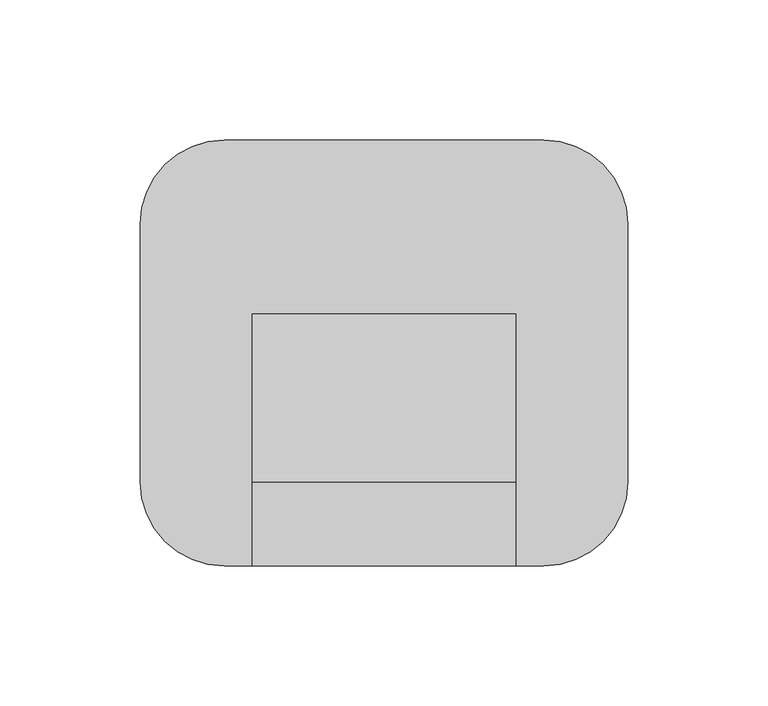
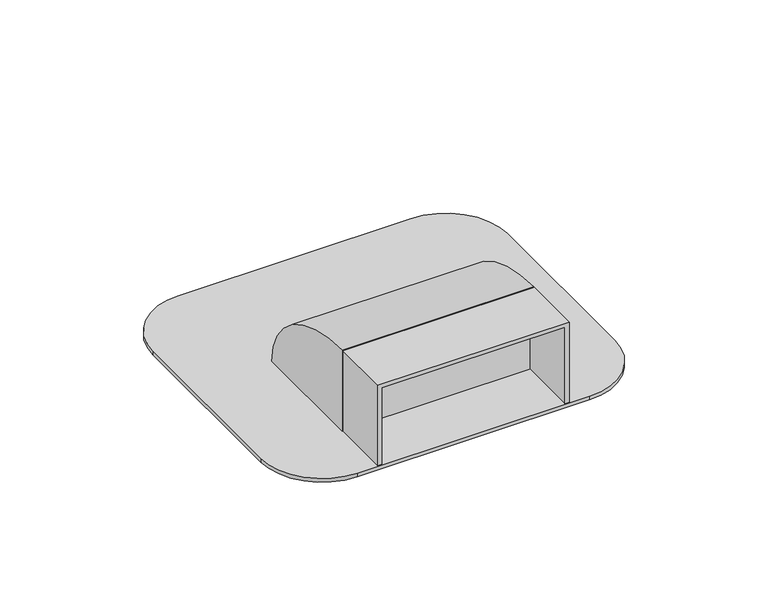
"""IFC4 building model written with IfcOpenShell, lengths in millimetres: duct fitting geometry, КНС_ВводВСтенуПодУглом_DKC : Ввод в стену."""

import ifcopenshell
import ifcopenshell.guid

model = None  # the IFC model being written
_history = None  # IfcOwnerHistory: only IFC2X3 demands one
_inside = {}  # id of a spatial element -> (the spatial element, [elements in it])
_under = {}  # id of a project, library or spatial element -> (it, [spatial elements below it])
_declared = {}  # id of a project -> (the project, [libraries it declares])
_typed = {}  # id of a type object -> (the type object, [elements of that type])
_made_of = {}  # id of a material, layer set ... -> (it, [elements and type objects made of it])


def new_model(schema):
    """Start an empty IFC model of exactly this schema.

    Asked for "IFC4X3", IfcOpenShell would pick the latest addendum, in which some entities
    have other attributes; the version numbers below select the first issue.
    IFC2X3 requires an IfcOwnerHistory on every rooted entity: one is made here for all.
    """
    global model, _history
    if schema == "IFC4X3":
        model = ifcopenshell.file(schema_version=(4, 3, 0, 0))
    else:
        model = ifcopenshell.file(schema=schema)
    _inside.clear()
    _under.clear()
    _declared.clear()
    _typed.clear()
    _made_of.clear()
    _history = None
    if model.schema == "IFC2X3":
        org = make("IfcOrganization", Name="unknown")
        user = make(
            "IfcPersonAndOrganization",
            ThePerson=make("IfcPerson", FamilyName="unknown"),
            TheOrganization=org,
        )
        app = make(
            "IfcApplication",
            ApplicationDeveloper=org,
            Version="unknown",
            ApplicationFullName="unknown",
            ApplicationIdentifier="unknown",
        )
        _history = make(
            "IfcOwnerHistory",
            OwningUser=user,
            OwningApplication=app,
            ChangeAction="ADDED",
            CreationDate=0,
        )
    return model


def make(cls, **values):
    """One entity of the class cls with the attributes given. An attribute that is None is left unset."""
    return model.create_entity(
        cls, **{name: value for name, value in values.items() if value is not None}
    )


def rooted(cls, **values):
    """An entity with a GlobalId (a new one), such as an element, a storey or a relation."""
    return make(cls, GlobalId=ifcopenshell.guid.new(), OwnerHistory=_history, **values)


def si_unit(unit_type, name, prefix=None):
    """IfcSIUnit, for example si_unit("LENGTHUNIT", "METRE", prefix="MILLI")."""
    return make("IfcSIUnit", UnitType=unit_type, Prefix=prefix, Name=name)


def assignment(units):
    """IfcUnitAssignment: the units of a project."""
    return None if units is None else make("IfcUnitAssignment", Units=units)


def point(xyz):
    """IfcCartesianPoint."""
    return None if xyz is None else make("IfcCartesianPoint", Coordinates=xyz)


def direction(xyz):
    """IfcDirection."""
    return None if xyz is None else make("IfcDirection", DirectionRatios=xyz)


def frame(location, z_axis=None, x_axis=None):
    """IfcAxis2Placement3D, a coordinate frame: its origin and axes. An axis left out is left unset."""
    return make(
        "IfcAxis2Placement3D",
        Location=point(location),
        Axis=direction(z_axis),
        RefDirection=direction(x_axis),
    )


def frame_2d(location, x_axis=None):
    """IfcAxis2Placement2D, a coordinate frame in the plane: its origin and x axis."""
    return make(
        "IfcAxis2Placement2D", Location=point(location), RefDirection=direction(x_axis)
    )


def origin():
    """The frame at (0, 0, 0) with its axes left unset."""
    return frame((0.0, 0.0, 0.0))


def place(relative_to, where):
    """IfcLocalPlacement: puts the frame where relative to a parent placement (None: the world)."""
    return make(
        "IfcLocalPlacement", PlacementRelTo=relative_to, RelativePlacement=where
    )


def context(
    kind, dimensions, precision=None, world=None, true_north=None, identifier=None
):
    """IfcGeometricRepresentationContext, for example the 3D "Model" context."""
    return make(
        "IfcGeometricRepresentationContext",
        ContextIdentifier=identifier,
        ContextType=kind,
        CoordinateSpaceDimension=dimensions,
        Precision=precision,
        WorldCoordinateSystem=world,
        TrueNorth=true_north,
    )


def project(units=None, contexts=None):
    """IfcProject with its units and contexts."""
    return rooted(
        "IfcProject",
        Name="project",
        RepresentationContexts=contexts,
        UnitsInContext=assignment(units),
    )


def spatial(cls, under=None, at=None, **own):
    """A site, building, storey or space (cls), placed at a placement, below another one or the project."""
    s = rooted(cls, ObjectPlacement=at, **own)
    if under is not None:
        _under.setdefault(under.id(), (under, []))[1].append(s)
    return s


def polyline(points):
    """IfcPolyline through the points."""
    return make("IfcPolyline", Points=[point(p) for p in points])


def circle_curve(where, radius):
    """IfcCircle in the frame where."""
    return make("IfcCircle", Position=where, Radius=radius)


def ellipse_curve(where, semi_axis1, semi_axis2):
    """IfcEllipse in the frame where."""
    return make(
        "IfcEllipse", Position=where, SemiAxis1=semi_axis1, SemiAxis2=semi_axis2
    )


def trimmed(basis, trim1, trim2, sense, master):
    """IfcTrimmedCurve: the piece of a basis curve between two trims."""
    return make(
        "IfcTrimmedCurve",
        BasisCurve=basis,
        Trim1=trim1,
        Trim2=trim2,
        SenseAgreement=sense,
        MasterRepresentation=master,
    )


def segment(curve, same_sense, transition):
    """IfcCompositeCurveSegment."""
    return make(
        "IfcCompositeCurveSegment",
        Transition=transition,
        SameSense=same_sense,
        ParentCurve=curve,
    )


def composite_curve(segments, self_intersect=None):
    """IfcCompositeCurve: segments joined end to end."""
    return make("IfcCompositeCurve", Segments=segments, SelfIntersect=self_intersect)


def outline(outer, holes=None, kind="AREA"):
    """IfcArbitraryClosedProfileDef: a profile drawn as a closed curve; with holes, ...WithVoids."""
    if holes is None:
        return make("IfcArbitraryClosedProfileDef", ProfileType=kind, OuterCurve=outer)
    return make(
        "IfcArbitraryProfileDefWithVoids",
        ProfileType=kind,
        OuterCurve=outer,
        InnerCurves=holes,
    )


def extrude(swept, where, along, depth):
    """IfcExtrudedAreaSolid: the profile swept, set in the frame where, extruded along a direction by depth."""
    return make(
        "IfcExtrudedAreaSolid",
        SweptArea=swept,
        Position=where,
        ExtrudedDirection=direction(along),
        Depth=depth,
    )


def shape(context_of_items, identifier, shape_type, items):
    """IfcShapeRepresentation: the items that make up one representation, for example the "Body"."""
    return make(
        "IfcShapeRepresentation",
        ContextOfItems=context_of_items,
        RepresentationIdentifier=identifier,
        RepresentationType=shape_type,
        Items=items,
    )


def source(mapping_origin, context_of_items, identifier, shape_type, items):
    """IfcRepresentationMap: a shape defined once, which mapped items show again and again."""
    return make(
        "IfcRepresentationMap",
        MappingOrigin=mapping_origin,
        MappedRepresentation=shape(context_of_items, identifier, shape_type, items),
    )


def transform(
    local_origin,
    x_axis=None,
    y_axis=None,
    z_axis=None,
    scale=None,
    scale2=None,
    scale3=None,
    uniform=True,
):
    """IfcCartesianTransformationOperator3D, or its non-uniform kind. x_axis, y_axis, z_axis: its Axis1, 2, 3."""
    if uniform:
        return make(
            "IfcCartesianTransformationOperator3D",
            Axis1=direction(x_axis),
            Axis2=direction(y_axis),
            LocalOrigin=point(local_origin),
            Scale=scale,
            Axis3=direction(z_axis),
        )
    return make(
        "IfcCartesianTransformationOperator3DnonUniform",
        Axis1=direction(x_axis),
        Axis2=direction(y_axis),
        LocalOrigin=point(local_origin),
        Scale=scale,
        Axis3=direction(z_axis),
        Scale2=scale2,
        Scale3=scale3,
    )


def mapped(mapping_source, mapping_target):
    """IfcMappedItem: shows the shape of a source again, moved by a transform."""
    return make(
        "IfcMappedItem", MappingSource=mapping_source, MappingTarget=mapping_target
    )


def made_of(thing, what):
    """Note that an element or type object is made of a material, layer set ...; save() writes the relation."""
    if what is not None:
        _made_of.setdefault(what.id(), (what, []))[1].append(thing)
    return thing


def element(
    cls,
    number,
    at=None,
    inside=None,
    cuts=None,
    type_object=None,
    material=None,
    context=None,
    identifier="Body",
    shape_type=None,
    held_by="IfcProductDefinitionShape",
    body=None,
    shapes=None,
    **own,
):
    """One element of the class cls, such as IfcWall. Its Tag is "e" and its number.

    at: its placement. inside: the storey or other place that contains it. cuts: it is an
    opening in that element (IfcRelVoidsElement). A single representation is given by context,
    identifier, shape_type and body (its items); several are given by shapes. held_by: the class
    of the entity that holds the representations. save() writes the other relations.
    """
    e = rooted(cls, Tag="e%d" % number, ObjectPlacement=at, **own)
    if body is not None:
        shapes = [shape(context, identifier, shape_type, body)]
    if shapes is not None:
        e.Representation = make(held_by, Representations=shapes)
    if inside is not None:
        _inside.setdefault(inside.id(), (inside, []))[1].append(e)
    if cuts is not None:
        rooted(
            "IfcRelVoidsElement", RelatingBuildingElement=cuts, RelatedOpeningElement=e
        )
    if type_object is not None:
        _typed.setdefault(type_object.id(), (type_object, []))[1].append(e)
    return made_of(e, material)


def aggregate(whole, parts):
    """IfcRelAggregates: a whole, such as a stair, and the parts it consists of."""
    return rooted("IfcRelAggregates", RelatingObject=whole, RelatedObjects=parts)


def save(model, path):
    """Write the relations noted so far, then the file.

    IfcRelAggregates (storeys below a building ...), IfcRelContainedInSpatialStructure (elements
    in a storey), IfcRelDefinesByType, IfcRelAssociatesMaterial and IfcRelDeclares: one each for
    every whole, place, type object, material and project.
    """
    for whole, parts in _under.values():
        aggregate(whole, parts)
    for where, things in _inside.values():
        rooted(
            "IfcRelContainedInSpatialStructure",
            RelatedElements=things,
            RelatingStructure=where,
        )
    for kind, things in _typed.values():
        rooted("IfcRelDefinesByType", RelatedObjects=things, RelatingType=kind)
    for what, things in _made_of.values():
        rooted("IfcRelAssociatesMaterial", RelatedObjects=things, RelatingMaterial=what)
    for by, libraries in _declared.values():
        rooted("IfcRelDeclares", RelatingContext=by, RelatedDefinitions=libraries)
    model.write(path)


def plane_surface(at):
    """IfcPlane: the flat surface through the origin of the frame at, square to its z axis."""
    return make("IfcPlane", Position=at)


def extruded_surface(curve, direction_of_extrusion, depth):
    """IfcSurfaceOfLinearExtrusion: the curve pushed along a direction by depth."""
    return make(
        "IfcSurfaceOfLinearExtrusion",
        SweptCurve=make("IfcArbitraryOpenProfileDef", ProfileType="CURVE", Curve=curve),
        ExtrudedDirection=direction(direction_of_extrusion),
        Depth=depth,
    )


def advanced_brep(points, edges, surfaces, faces):
    """IfcAdvancedBrep: a solid bounded by faces that lie on surfaces and meet in shared edges.

    An edge is (start, end): straight between two places in points (the first is 0);
    or (start, end, curve); or (start, end, curve, False) where it runs against its curve.
    A face is (place in surfaces, loops), or (place, loops, False) where it looks against
    its surface's normal. A loop lists edges by number (the first is 1), with a minus sign
    where the edge is run from its end to its start. The first loop is the outer one.
    """
    corners = [point(p) for p in points]
    vertices = [make("IfcVertexPoint", VertexGeometry=c) for c in corners]
    made = []
    for start, end, *more in edges:
        made.append(
            make(
                "IfcEdgeCurve",
                EdgeStart=vertices[start],
                EdgeEnd=vertices[end],
                EdgeGeometry=more[0] if more else make("IfcPolyline", Points=[corners[start], corners[end]]),
                SameSense=more[1] if len(more) > 1 else True,
            )
        )
    hull = []
    for where, loops, *sense in faces:
        bounds = []
        for j, loop in enumerate(loops):
            ring = [make("IfcOrientedEdge", EdgeElement=made[abs(k) - 1], Orientation=k > 0) for k in loop]
            bounds.append(
                make(
                    "IfcFaceOuterBound" if j == 0 else "IfcFaceBound",
                    Bound=make("IfcEdgeLoop", EdgeList=ring),
                    Orientation=True,
                )
            )
        hull.append(make("IfcAdvancedFace", Bounds=bounds, FaceSurface=surfaces[where], SameSense=sense[0] if sense else True))
    return make("IfcAdvancedBrep", Outer=make("IfcClosedShell", CfsFaces=hull))


def duct_fitting_75d2aa5f(model_context):
    return source(origin(), model_context, "Body", "SolidModel", [
        advanced_brep(
        [(47.0, 30.0, 22.0), (47.0, 30.0, -20.0), (47.0, 90.0, -20.0), (-47.0, 30.0, 22.0), (-47.0, 90.0, -20.0), (-47.0, 30.0, -20.0)],
        [
            (0, 1),
            (1, 2),
            (2, 0, ellipse_curve(frame((47.0, 30.0, -20.0), z_axis=(1.0, 0.0, 0.0), x_axis=(0.0, 1.0, 0.0)), 60.0, 42.0)),
            (3, 4, ellipse_curve(frame((-47.0, 30.0, -20.0), z_axis=(-1.0, 0.0, 0.0), x_axis=(0.0, 0.0, -1.0)), 42.0, 60.0)),
            (4, 5),
            (5, 3),
            (0, 3),
            (5, 1),
            (4, 2),
        ],
        [
            plane_surface(frame((47.0, 30.0, 22.0), z_axis=(1.0, 0.0, 0.0), x_axis=(0.0, 0.0, -1.0))),
            plane_surface(frame((-47.0, 30.0, 22.0), z_axis=(-1.0, 0.0, 0.0), x_axis=(0.0, 0.0, 1.0))),
            plane_surface(frame((47.0, 30.0, 22.0), z_axis=(0.0, -1.0, 0.0), x_axis=(-1.0, 0.0, 0.0))),
            plane_surface(frame((47.0, 30.0, -20.0), z_axis=(0.0, 0.0, -1.0), x_axis=(-1.0, 0.0, 0.0))),
            extruded_surface(trimmed(ellipse_curve(frame((-141.0, 30.0, -20.0), z_axis=(1.0, 0.0, 0.0), x_axis=(0.0, 0.0, -1.0)), 42.0, 60.0), [point((-141.0, 90.0, -20.0))], [point((-141.0, 30.0, 22.0))], True, "CARTESIAN"), (94.0, 0.0, 0.0), 94.0),
        ],
        [
            (0, [[1, 2, 3]]),
            (1, [[4, 5, 6]]),
            (2, [[-1, 7, -6, 8]]),
            (3, [[-2, -8, -5, 9]]),
            (4, [[-3, -9, -4, -7]]),
        ],
    ),
        extrude(outline(composite_curve([segment(trimmed(circle_curve(frame_2d((57.0, 122.0)), 30.0), [point((57.0, 152.0))], [point((87.0, 122.0))], False, "CARTESIAN"), True, "CONTINUOUS"), segment(polyline([(87.0, 122.0), (87.0, 30.0)]), True, "CONTINUOUS"), segment(trimmed(circle_curve(frame_2d((57.0, 30.0)), 30.0), [point((87.0, 30.0))], [point((57.0, 0.0))], False, "CARTESIAN"), True, "CONTINUOUS"), segment(polyline([(57.0, 0.0), (-57.0, 0.0)]), True, "CONTINUOUS"), segment(trimmed(circle_curve(frame_2d((-57.0, 30.0)), 30.0), [point((-57.0, 0.0))], [point((-87.0, 30.0))], False, "CARTESIAN"), True, "CONTINUOUS"), segment(polyline([(-87.0, 30.0), (-87.0, 122.0)]), True, "CONTINUOUS"), segment(trimmed(circle_curve(frame_2d((-57.0, 122.0)), 30.0), [point((-87.0, 122.0))], [point((-57.0, 152.0))], False, "CARTESIAN"), True, "CONTINUOUS"), segment(polyline([(-57.0, 152.0), (57.0, 152.0)]), True, "CONTINUOUS")], self_intersect=False)), frame((0.0, 0.0, -22.0), z_axis=(0.0, 0.0, 1.0), x_axis=(1.0, 0.0, 0.0)), (0.0, 0.0, 1.0), 2.0),
        extrude(outline(polyline([(-20.0, -45.0), (20.0, -45.0), (20.0, 45.0), (-20.0, 45.0), (-20.0, 47.0), (22.0, 47.0), (22.0, -47.0), (-20.0, -47.0), (-20.0, -45.0)])), frame((0.0, 0.0, 0.0), z_axis=(0.0, 1.0, 0.0), x_axis=(0.0, 0.0, 1.0)), (0.0, 0.0, 1.0), 30.0),
    ])


if __name__ == "__main__":
    model = new_model("IFC4")
    model_context = context("Model", 3, world=origin())
    ifc_project = project(units=[si_unit("LENGTHUNIT", "METRE", prefix="MILLI")], contexts=[model_context])
    site = spatial("IfcSite", under=ifc_project)
    building = spatial("IfcBuilding", under=site)
    placement = place(None, origin())
    duct_fitting_shape = duct_fitting_75d2aa5f(model_context)
    element("IfcDuctFitting", 1, ObjectType="КНС_ВводВСтенуПодУглом_DKC : Ввод в стену", at=placement, inside=building, context=model_context, shape_type="MappedRepresentation", body=[
        mapped(duct_fitting_shape, transform((0.0, 0.0, 0.0), x_axis=(1.0, 0.0, 0.0), y_axis=(0.0, 1.0, 0.0), z_axis=(0.0, 0.0, 1.0))),
    ])
    save(model, "model.ifc")
